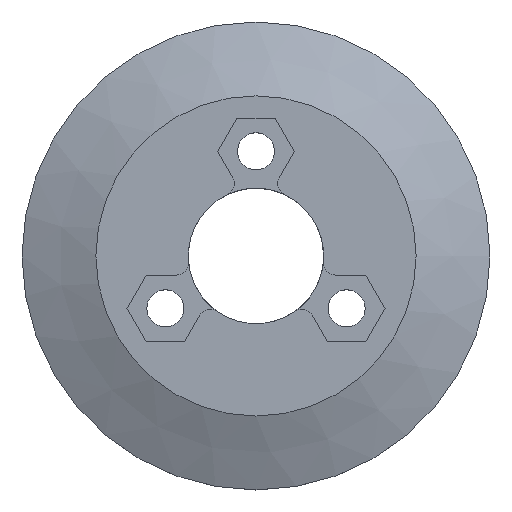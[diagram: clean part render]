
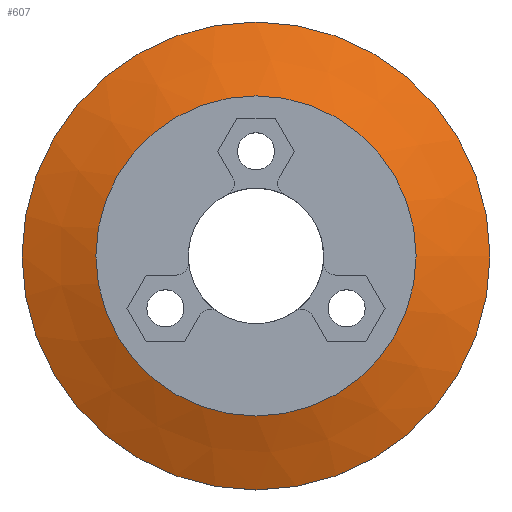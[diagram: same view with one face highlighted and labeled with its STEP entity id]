
A CAD part, top view. The second image highlights one B-rep face of the part: STEP entity #607.
In plain terms, the highlighted conical face has half-angle 67.38 degrees and reference radius 13 mm.
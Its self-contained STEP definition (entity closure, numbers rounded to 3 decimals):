
#12=CONICAL_SURFACE('',#680,13.,1.176);
#303=ORIENTED_EDGE('',*,*,#322,.F.);
#304=ORIENTED_EDGE('',*,*,#326,.F.);
#322=EDGE_CURVE('',#404,#404,#456,.F.);
#326=EDGE_CURVE('',#408,#408,#460,.T.);
#404=VERTEX_POINT('',#897);
#408=VERTEX_POINT('',#907);
#456=CIRCLE('',#636,19.);
#460=CIRCLE('',#642,13.);
#517=EDGE_LOOP('',(#303));
#518=EDGE_LOOP('',(#304));
#563=FACE_BOUND('',#517,.T.);
#564=FACE_BOUND('',#518,.T.);
#607=ADVANCED_FACE('',(#563,#564),#12,.T.);
#636=AXIS2_PLACEMENT_3D('',#896,#719,#720);
#642=AXIS2_PLACEMENT_3D('',#906,#731,#732);
#680=AXIS2_PLACEMENT_3D('',#1029,#855,#856);
#719=DIRECTION('',(0.,0.,1.));
#720=DIRECTION('',(1.,0.,0.));
#731=DIRECTION('',(0.,0.,1.));
#732=DIRECTION('',(1.,0.,0.));
#855=DIRECTION('',(0.,0.,-1.));
#856=DIRECTION('',(-1.,0.,0.));
#896=CARTESIAN_POINT('',(0.,0.,2.));
#897=CARTESIAN_POINT('',(19.,0.,2.));
#906=CARTESIAN_POINT('',(0.,0.,4.5));
#907=CARTESIAN_POINT('',(13.,0.,4.5));
#1029=CARTESIAN_POINT('',(0.,0.,4.5));
